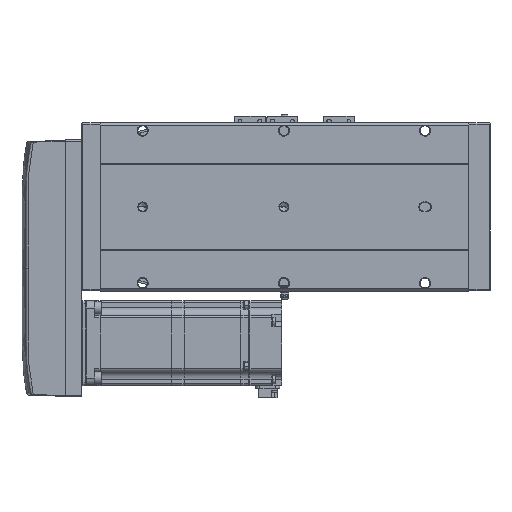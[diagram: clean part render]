
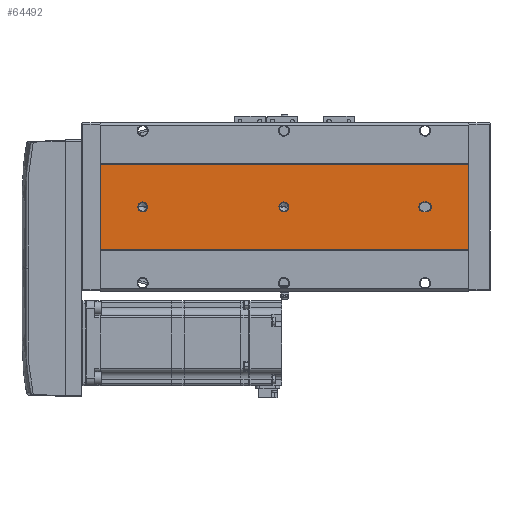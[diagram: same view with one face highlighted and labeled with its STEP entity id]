
A CAD part, front view. The second image highlights one B-rep face of the part: STEP entity #64492.
In plain terms, the highlighted planar face has unit normal (0, -1, 0).
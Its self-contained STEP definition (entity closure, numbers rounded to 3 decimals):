
#127 = ORIENTED_EDGE ( 'NONE', *, *, #70827, .F. ) ;
#336 = CIRCLE ( 'NONE', #31052, 3.5 ) ;
#724 = CARTESIAN_POINT ( 'NONE',  ( -39.892, -52.848, 231. ) ) ;
#756 = AXIS2_PLACEMENT_3D ( 'NONE', #68995, #58100, #74796 ) ;
#935 = DIRECTION ( 'NONE',  ( 0., 0., 1. ) ) ;
#1194 = AXIS2_PLACEMENT_3D ( 'NONE', #45175, #74429, #56485 ) ;
#1205 = DIRECTION ( 'NONE',  ( 0., 0., 1. ) ) ;
#1877 = CARTESIAN_POINT ( 'NONE',  ( -9.892, -52.848, 261. ) ) ;
#3317 = LINE ( 'NONE', #23424, #47653 ) ;
#3662 = VERTEX_POINT ( 'NONE', #28384 ) ;
#3876 = LINE ( 'NONE', #59797, #9330 ) ;
#4428 = ORIENTED_EDGE ( 'NONE', *, *, #12485, .T. ) ;
#5044 = EDGE_CURVE ( 'NONE', #13255, #64032, #55630, .T. ) ;
#5419 = DIRECTION ( 'NONE',  ( 0., 1., 0. ) ) ;
#6617 = DIRECTION ( 'NONE',  ( 0., 1., 0. ) ) ;
#6818 = AXIS2_PLACEMENT_3D ( 'NONE', #58120, #6617, #46295 ) ;
#8953 = CARTESIAN_POINT ( 'NONE',  ( -9.892, -52.848, 261. ) ) ;
#9044 = LINE ( 'NONE', #1877, #34356 ) ;
#9330 = VECTOR ( 'NONE', #25246, 1000. ) ;
#9809 = VERTEX_POINT ( 'NONE', #15740 ) ;
#12347 = EDGE_CURVE ( 'NONE', #41140, #61373, #65479, .T. ) ;
#12393 = VECTOR ( 'NONE', #35930, 1000. ) ;
#12485 = EDGE_CURVE ( 'NONE', #61373, #41140, #56417, .T. ) ;
#13255 = VERTEX_POINT ( 'NONE', #17053 ) ;
#15153 = CARTESIAN_POINT ( 'NONE',  ( -39.892, -52.848, 227.5 ) ) ;
#15740 = CARTESIAN_POINT ( 'NONE',  ( -9.892, -52.848, 0. ) ) ;
#17010 = ORIENTED_EDGE ( 'NONE', *, *, #12347, .T. ) ;
#17053 = CARTESIAN_POINT ( 'NONE',  ( -43.392, -52.848, 30. ) ) ;
#17555 = CARTESIAN_POINT ( 'NONE',  ( -69.892, -52.848, 0. ) ) ;
#17832 = EDGE_CURVE ( 'NONE', #40595, #46091, #21298, .T. ) ;
#17882 = VERTEX_POINT ( 'NONE', #19124 ) ;
#18305 = EDGE_CURVE ( 'NONE', #17882, #32782, #32018, .T. ) ;
#18407 = CIRCLE ( 'NONE', #6818, 3.5 ) ;
#18744 = VERTEX_POINT ( 'NONE', #36819 ) ;
#19124 = CARTESIAN_POINT ( 'NONE',  ( -36.392, -52.848, 32. ) ) ;
#21298 = CIRCLE ( 'NONE', #52238, 3.5 ) ;
#22590 = EDGE_CURVE ( 'NONE', #64909, #9809, #3876, .T. ) ;
#22959 = CARTESIAN_POINT ( 'NONE',  ( -39.892, -52.848, 32. ) ) ;
#23157 = CARTESIAN_POINT ( 'NONE',  ( -39.892, -52.848, 30. ) ) ;
#23424 = CARTESIAN_POINT ( 'NONE',  ( -69.892, -52.848, 261. ) ) ;
#25189 = ORIENTED_EDGE ( 'NONE', *, *, #59001, .T. ) ;
#25246 = DIRECTION ( 'NONE',  ( 1., 0., 0. ) ) ;
#27445 = EDGE_CURVE ( 'NONE', #56690, #9809, #9044, .T. ) ;
#27546 = FACE_BOUND ( 'NONE', #54567, .T. ) ;
#27791 = LINE ( 'NONE', #30377, #12393 ) ;
#28384 = CARTESIAN_POINT ( 'NONE',  ( -69.892, -52.848, 261. ) ) ;
#29280 = DIRECTION ( 'NONE',  ( 0., 0., 1. ) ) ;
#30124 = DIRECTION ( 'NONE',  ( 0., 0., -1. ) ) ;
#30377 = CARTESIAN_POINT ( 'NONE',  ( -69.892, -52.848, 261. ) ) ;
#30587 = CARTESIAN_POINT ( 'NONE',  ( -39.892, -52.848, 134.5 ) ) ;
#30729 = ORIENTED_EDGE ( 'NONE', *, *, #72501, .T. ) ;
#31052 = AXIS2_PLACEMENT_3D ( 'NONE', #22959, #41064, #935 ) ;
#32018 = LINE ( 'NONE', #52048, #66344 ) ;
#32782 = VERTEX_POINT ( 'NONE', #60211 ) ;
#33649 = AXIS2_PLACEMENT_3D ( 'NONE', #47366, #35987, #45925 ) ;
#34219 = ORIENTED_EDGE ( 'NONE', *, *, #42762, .T. ) ;
#34356 = VECTOR ( 'NONE', #71556, 1000. ) ;
#35390 = CARTESIAN_POINT ( 'NONE',  ( -43.392, -52.848, 32. ) ) ;
#35492 = EDGE_CURVE ( 'NONE', #64032, #17882, #336, .T. ) ;
#35930 = DIRECTION ( 'NONE',  ( 0., 0., -1. ) ) ;
#35987 = DIRECTION ( 'NONE',  ( 0., 1., 0. ) ) ;
#36819 = CARTESIAN_POINT ( 'NONE',  ( -39.892, -52.848, 26.5 ) ) ;
#37442 = FACE_OUTER_BOUND ( 'NONE', #61068, .T. ) ;
#40347 = VECTOR ( 'NONE', #53445, 1000. ) ;
#40595 = VERTEX_POINT ( 'NONE', #15153 ) ;
#41064 = DIRECTION ( 'NONE',  ( 0., 1., 0. ) ) ;
#41140 = VERTEX_POINT ( 'NONE', #67830 ) ;
#41893 = CARTESIAN_POINT ( 'NONE',  ( -43.392, -52.848, 261. ) ) ;
#42083 = CIRCLE ( 'NONE', #33649, 3.5 ) ;
#42762 = EDGE_CURVE ( 'NONE', #46091, #40595, #18407, .T. ) ;
#43810 = FACE_BOUND ( 'NONE', #65909, .T. ) ;
#44459 = ORIENTED_EDGE ( 'NONE', *, *, #18305, .T. ) ;
#44483 = ORIENTED_EDGE ( 'NONE', *, *, #35492, .T. ) ;
#45175 = CARTESIAN_POINT ( 'NONE',  ( -39.892, -52.848, 131. ) ) ;
#45925 = DIRECTION ( 'NONE',  ( 0., 0., 1. ) ) ;
#46091 = VERTEX_POINT ( 'NONE', #73338 ) ;
#46295 = DIRECTION ( 'NONE',  ( 0., 0., 1. ) ) ;
#47366 = CARTESIAN_POINT ( 'NONE',  ( -39.892, -52.848, 30. ) ) ;
#47653 = VECTOR ( 'NONE', #69582, 1000. ) ;
#48780 = ORIENTED_EDGE ( 'NONE', *, *, #66865, .T. ) ;
#48906 = PLANE ( 'NONE',  #54233 ) ;
#50880 = DIRECTION ( 'NONE',  ( 0., 0., 1. ) ) ;
#52048 = CARTESIAN_POINT ( 'NONE',  ( -36.392, -52.848, 261. ) ) ;
#52238 = AXIS2_PLACEMENT_3D ( 'NONE', #724, #63829, #29280 ) ;
#52929 = DIRECTION ( 'NONE',  ( 0., 1., 0. ) ) ;
#53445 = DIRECTION ( 'NONE',  ( 0., 0., 1. ) ) ;
#53532 = ORIENTED_EDGE ( 'NONE', *, *, #17832, .T. ) ;
#54233 = AXIS2_PLACEMENT_3D ( 'NONE', #70133, #52929, #1205 ) ;
#54567 = EDGE_LOOP ( 'NONE', ( #53532, #34219 ) ) ;
#55488 = FACE_BOUND ( 'NONE', #69553, .T. ) ;
#55630 = LINE ( 'NONE', #41893, #40347 ) ;
#56417 = CIRCLE ( 'NONE', #756, 3.5 ) ;
#56485 = DIRECTION ( 'NONE',  ( 0., 0., 1. ) ) ;
#56690 = VERTEX_POINT ( 'NONE', #8953 ) ;
#58100 = DIRECTION ( 'NONE',  ( 0., 1., 0. ) ) ;
#58120 = CARTESIAN_POINT ( 'NONE',  ( -39.892, -52.848, 231. ) ) ;
#59001 = EDGE_CURVE ( 'NONE', #32782, #18744, #42083, .T. ) ;
#59093 = CIRCLE ( 'NONE', #64551, 3.5 ) ;
#59797 = CARTESIAN_POINT ( 'NONE',  ( -69.892, -52.848, 0. ) ) ;
#60211 = CARTESIAN_POINT ( 'NONE',  ( -36.392, -52.848, 30. ) ) ;
#61068 = EDGE_LOOP ( 'NONE', ( #74021, #62467, #127, #30729 ) ) ;
#61373 = VERTEX_POINT ( 'NONE', #30587 ) ;
#62467 = ORIENTED_EDGE ( 'NONE', *, *, #27445, .F. ) ;
#63829 = DIRECTION ( 'NONE',  ( 0., 1., 0. ) ) ;
#64032 = VERTEX_POINT ( 'NONE', #35390 ) ;
#64492 = ADVANCED_FACE ( 'NONE', ( #43810, #55488, #27546, #37442 ), #48906, .F. ) ;
#64551 = AXIS2_PLACEMENT_3D ( 'NONE', #23157, #5419, #50880 ) ;
#64909 = VERTEX_POINT ( 'NONE', #17555 ) ;
#65479 = CIRCLE ( 'NONE', #1194, 3.5 ) ;
#65909 = EDGE_LOOP ( 'NONE', ( #44459, #25189, #48780, #74437, #44483 ) ) ;
#66344 = VECTOR ( 'NONE', #30124, 1000. ) ;
#66865 = EDGE_CURVE ( 'NONE', #18744, #13255, #59093, .T. ) ;
#67830 = CARTESIAN_POINT ( 'NONE',  ( -39.892, -52.848, 127.5 ) ) ;
#68995 = CARTESIAN_POINT ( 'NONE',  ( -39.892, -52.848, 131. ) ) ;
#69553 = EDGE_LOOP ( 'NONE', ( #17010, #4428 ) ) ;
#69582 = DIRECTION ( 'NONE',  ( 1., 0., 0. ) ) ;
#70133 = CARTESIAN_POINT ( 'NONE',  ( -69.892, -52.848, 261. ) ) ;
#70827 = EDGE_CURVE ( 'NONE', #3662, #56690, #3317, .T. ) ;
#71556 = DIRECTION ( 'NONE',  ( 0., 0., -1. ) ) ;
#72501 = EDGE_CURVE ( 'NONE', #3662, #64909, #27791, .T. ) ;
#73338 = CARTESIAN_POINT ( 'NONE',  ( -39.892, -52.848, 234.5 ) ) ;
#74021 = ORIENTED_EDGE ( 'NONE', *, *, #22590, .T. ) ;
#74429 = DIRECTION ( 'NONE',  ( 0., 1., 0. ) ) ;
#74437 = ORIENTED_EDGE ( 'NONE', *, *, #5044, .T. ) ;
#74796 = DIRECTION ( 'NONE',  ( 0., 0., 1. ) ) ;
